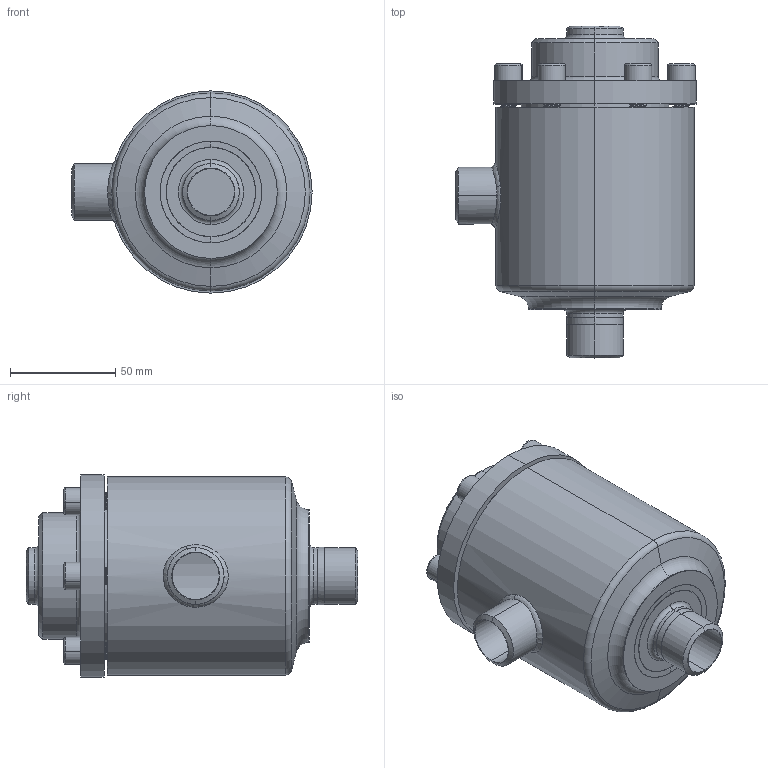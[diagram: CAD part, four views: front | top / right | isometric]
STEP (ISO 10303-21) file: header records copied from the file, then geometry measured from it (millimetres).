
FILE_DESCRIPTION (( 'STEP AP214' ), '1' );
FILE_NAME ('TR47000C11-DN20_R1_PS40.STEP', '2005-08-10T05:23:49', ( 'Herr Grams' ), ( 'AWP GmbH' ), 'SwSTEP 2.0', 'SolidWorks 2002296', '' );
FILE_SCHEMA (( 'AUTOMOTIVE_DESIGN' ));
Length unit declared in the file: millimetre
Products named in the file (12): TR47000C11-DN20_R1_PS40; Führungsring47050-11-DN15-40_Standard; Geh-kpl47000E11-DN20_PS40_R1_Standard; Stutzenteil47000E11_DN20_PS40_R1_Standard; Geh47000E11_DN20_PS40_R1_Standard; RohrstutzE00000-DN15-25_PS40_R1_DN 20; bead11-3_Standard; bead11-2_Standard; bead11-1_Standard; RohrstutzA47000E11-DN20_PS40_R1_Standard; Deckel47000E11_DN20_PS40_R1_Standard; Zylinderschraube-DIN912-M 8x22_M 8x 22
Assembly tree (16 placements, depth 3):
  TR47000C11-DN20_R1_PS40
    Deckel47000E11_DN20_PS40_R1_Standard
    Zylinderschraube-DIN912-M 8x22_M 8x 22  x6
    Geh-kpl47000E11-DN20_PS40_R1_Standard
      bead11-2_Standard
      Geh47000E11_DN20_PS40_R1_Standard
      RohrstutzA47000E11-DN20_PS40_R1_Standard
      bead11-3_Standard
      Stutzenteil47000E11_DN20_PS40_R1_Standard
      bead11-1_Standard
      RohrstutzE00000-DN15-25_PS40_R1_DN 20
    Führungsring47050-11-DN15-40_Standard
Bounding box: 114 x 157.5 x 96 mm (x, y, z)
Volume: 484287 mm3; surface area: 125090.8 mm2
Topology: 15 solids, 15 shells, 479 faces, 1222 edges, 790 vertices
Faces by surface type: cylinder 296, plane 91, cone 46, torus 24, bspline 22
Entity records: 22461 total; most frequent: CARTESIAN_POINT 16816, ORIENTED_EDGE 984, DIRECTION 970, EDGE_CURVE 492, AXIS2_PLACEMENT_3D 401, VERTEX_POINT 310, EDGE_LOOP 254, FACE_OUTER_BOUND 209
